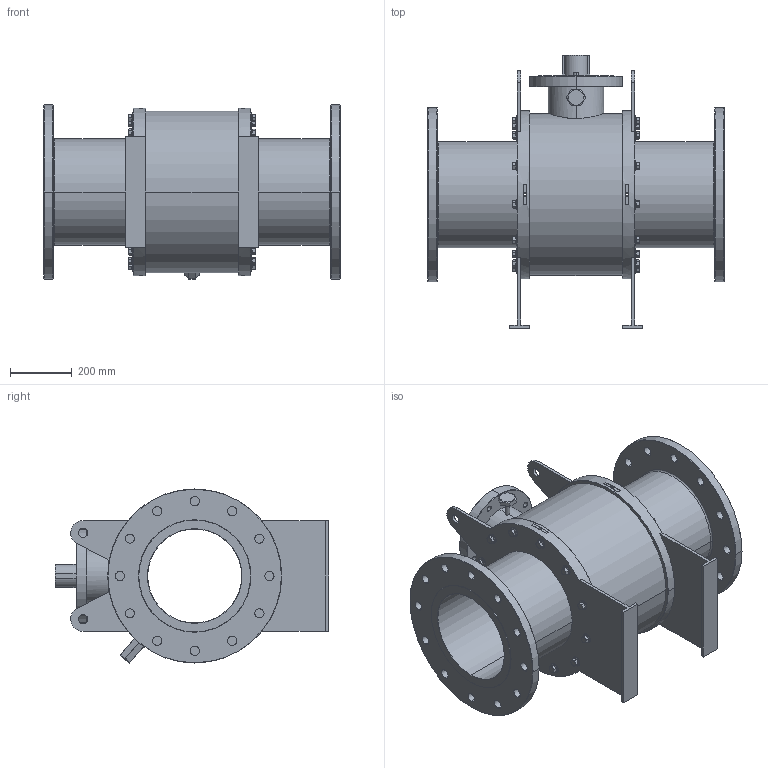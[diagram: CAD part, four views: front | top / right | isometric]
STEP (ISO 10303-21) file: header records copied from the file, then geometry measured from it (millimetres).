
FILE_DESCRIPTION (( 'STEP AP203' ), '1' );
FILE_NAME ('GB2_ANSI_900_12IN_TW.STEP', '2025-10-09T15:08:09', ( '' ), ( '' ), 'SwSTEP 2.0', 'SolidWorks 2025', '' );
FILE_SCHEMA (( 'CONFIG_CONTROL_DESIGN' ));
Length unit declared in the file: millimetre
Products named in the file (3): GB2_ANSI_2500_1500_ANSI_900_12IN; GB2_ANSI_900_12IN_TW; hex flange screw_am_B18.2.3.4M - Hex flange screw, M16 x 2.0 x 25 --25N
Assembly tree (25 placements, depth 2):
  GB2_ANSI_900_12IN_TW
    GB2_ANSI_2500_1500_ANSI_900_12IN
    hex flange screw_am_B18.2.3.4M - Hex flange screw, M16 x 2.0 x 25 --25N  x24
Bounding box: 965 x 886.5 x 565 mm (x, y, z)
Volume: 84462134.3 mm3; surface area: 4081163.2 mm2
Topology: 25 solids, 25 shells, 1041 faces, 2326 edges, 1392 vertices
Faces by surface type: plane 325, cone 270, cylinder 230, bspline 156, torus 54, sphere 6
Entity records: 13935 total; most frequent: CARTESIAN_POINT 3918, DIRECTION 2022, ORIENTED_EDGE 1792, EDGE_CURVE 896, AXIS2_PLACEMENT_3D 820, VERTEX_POINT 562, EDGE_LOOP 492, CIRCLE 436
